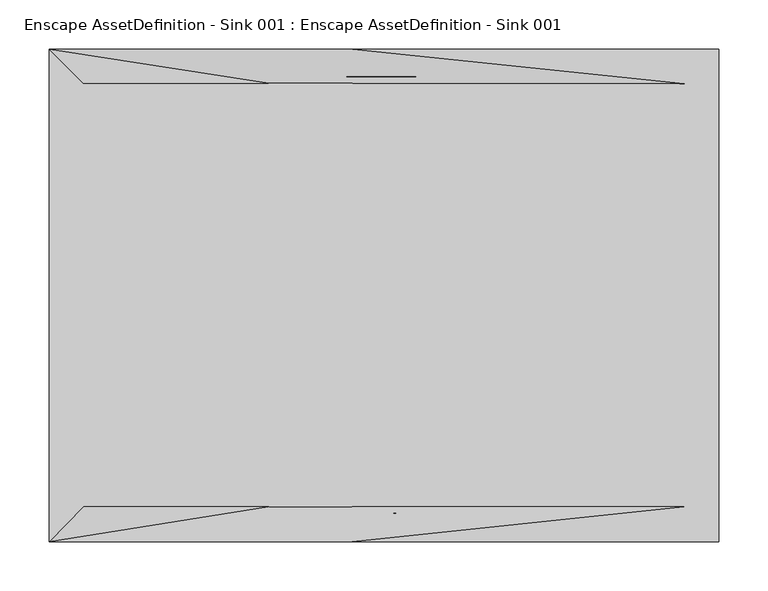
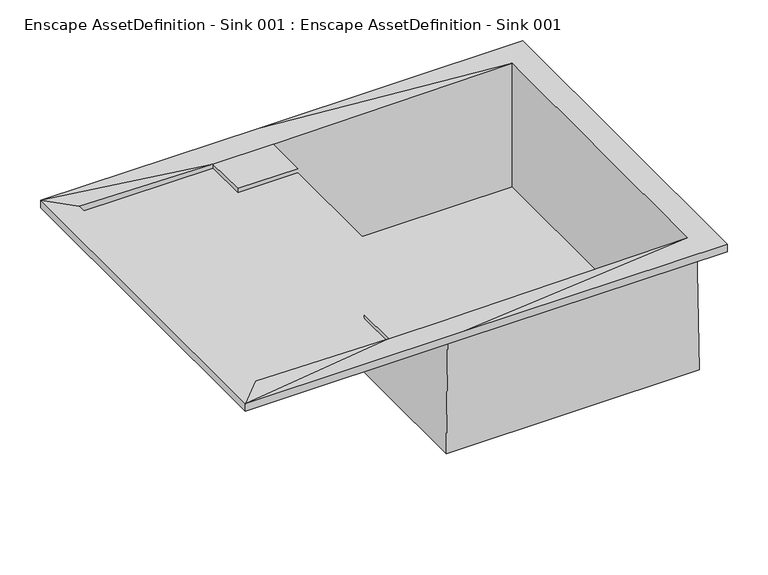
"""IFC4 building model written with IfcOpenShell, lengths in millimetres: geographic element geometry, Enscape AssetDefinition - Sink 001 : Enscape AssetDefinition - Sink 001."""

import ifcopenshell
import ifcopenshell.guid

model = None  # the IFC model being written
_history = None  # IfcOwnerHistory: only IFC2X3 demands one
_inside = {}  # id of a spatial element -> (the spatial element, [elements in it])
_under = {}  # id of a project, library or spatial element -> (it, [spatial elements below it])
_declared = {}  # id of a project -> (the project, [libraries it declares])
_typed = {}  # id of a type object -> (the type object, [elements of that type])
_made_of = {}  # id of a material, layer set ... -> (it, [elements and type objects made of it])


def new_model(schema):
    """Start an empty IFC model of exactly this schema.

    Asked for "IFC4X3", IfcOpenShell would pick the latest addendum, in which some entities
    have other attributes; the version numbers below select the first issue.
    IFC2X3 requires an IfcOwnerHistory on every rooted entity: one is made here for all.
    """
    global model, _history
    if schema == "IFC4X3":
        model = ifcopenshell.file(schema_version=(4, 3, 0, 0))
    else:
        model = ifcopenshell.file(schema=schema)
    _inside.clear()
    _under.clear()
    _declared.clear()
    _typed.clear()
    _made_of.clear()
    _history = None
    if model.schema == "IFC2X3":
        org = make("IfcOrganization", Name="unknown")
        user = make(
            "IfcPersonAndOrganization",
            ThePerson=make("IfcPerson", FamilyName="unknown"),
            TheOrganization=org,
        )
        app = make(
            "IfcApplication",
            ApplicationDeveloper=org,
            Version="unknown",
            ApplicationFullName="unknown",
            ApplicationIdentifier="unknown",
        )
        _history = make(
            "IfcOwnerHistory",
            OwningUser=user,
            OwningApplication=app,
            ChangeAction="ADDED",
            CreationDate=0,
        )
    return model


def make(cls, **values):
    """One entity of the class cls with the attributes given. An attribute that is None is left unset."""
    return model.create_entity(
        cls, **{name: value for name, value in values.items() if value is not None}
    )


def rooted(cls, **values):
    """An entity with a GlobalId (a new one), such as an element, a storey or a relation."""
    return make(cls, GlobalId=ifcopenshell.guid.new(), OwnerHistory=_history, **values)


def si_unit(unit_type, name, prefix=None):
    """IfcSIUnit, for example si_unit("LENGTHUNIT", "METRE", prefix="MILLI")."""
    return make("IfcSIUnit", UnitType=unit_type, Prefix=prefix, Name=name)


def assignment(units):
    """IfcUnitAssignment: the units of a project."""
    return None if units is None else make("IfcUnitAssignment", Units=units)


def point(xyz):
    """IfcCartesianPoint."""
    return None if xyz is None else make("IfcCartesianPoint", Coordinates=xyz)


def direction(xyz):
    """IfcDirection."""
    return None if xyz is None else make("IfcDirection", DirectionRatios=xyz)


def frame(location, z_axis=None, x_axis=None):
    """IfcAxis2Placement3D, a coordinate frame: its origin and axes. An axis left out is left unset."""
    return make(
        "IfcAxis2Placement3D",
        Location=point(location),
        Axis=direction(z_axis),
        RefDirection=direction(x_axis),
    )


def origin():
    """The frame at (0, 0, 0) with its axes left unset."""
    return frame((0.0, 0.0, 0.0))


def place(relative_to, where):
    """IfcLocalPlacement: puts the frame where relative to a parent placement (None: the world)."""
    return make(
        "IfcLocalPlacement", PlacementRelTo=relative_to, RelativePlacement=where
    )


def context(
    kind, dimensions, precision=None, world=None, true_north=None, identifier=None
):
    """IfcGeometricRepresentationContext, for example the 3D "Model" context."""
    return make(
        "IfcGeometricRepresentationContext",
        ContextIdentifier=identifier,
        ContextType=kind,
        CoordinateSpaceDimension=dimensions,
        Precision=precision,
        WorldCoordinateSystem=world,
        TrueNorth=true_north,
    )


def project(units=None, contexts=None):
    """IfcProject with its units and contexts."""
    return rooted(
        "IfcProject",
        Name="project",
        RepresentationContexts=contexts,
        UnitsInContext=assignment(units),
    )


def spatial(cls, under=None, at=None, **own):
    """A site, building, storey or space (cls), placed at a placement, below another one or the project."""
    s = rooted(cls, ObjectPlacement=at, **own)
    if under is not None:
        _under.setdefault(under.id(), (under, []))[1].append(s)
    return s


def point_list(points):
    """IfcCartesianPointList2D or 3D."""
    cls = (
        "IfcCartesianPointList2D" if len(points[0]) == 2 else "IfcCartesianPointList3D"
    )
    return make(cls, CoordList=points)


def triangles(points, corners, closed=None, point_numbers=None):
    """IfcTriangulatedFaceSet: each triangle names its three corners, points numbered from 1."""
    return make(
        "IfcTriangulatedFaceSet",
        Coordinates=point_list(points),
        Closed=closed,
        CoordIndex=corners,
        PnIndex=point_numbers,
    )


def shape(context_of_items, identifier, shape_type, items):
    """IfcShapeRepresentation: the items that make up one representation, for example the "Body"."""
    return make(
        "IfcShapeRepresentation",
        ContextOfItems=context_of_items,
        RepresentationIdentifier=identifier,
        RepresentationType=shape_type,
        Items=items,
    )


def source(mapping_origin, context_of_items, identifier, shape_type, items):
    """IfcRepresentationMap: a shape defined once, which mapped items show again and again."""
    return make(
        "IfcRepresentationMap",
        MappingOrigin=mapping_origin,
        MappedRepresentation=shape(context_of_items, identifier, shape_type, items),
    )


def transform(
    local_origin,
    x_axis=None,
    y_axis=None,
    z_axis=None,
    scale=None,
    scale2=None,
    scale3=None,
    uniform=True,
):
    """IfcCartesianTransformationOperator3D, or its non-uniform kind. x_axis, y_axis, z_axis: its Axis1, 2, 3."""
    if uniform:
        return make(
            "IfcCartesianTransformationOperator3D",
            Axis1=direction(x_axis),
            Axis2=direction(y_axis),
            LocalOrigin=point(local_origin),
            Scale=scale,
            Axis3=direction(z_axis),
        )
    return make(
        "IfcCartesianTransformationOperator3DnonUniform",
        Axis1=direction(x_axis),
        Axis2=direction(y_axis),
        LocalOrigin=point(local_origin),
        Scale=scale,
        Axis3=direction(z_axis),
        Scale2=scale2,
        Scale3=scale3,
    )


def mapped(mapping_source, mapping_target):
    """IfcMappedItem: shows the shape of a source again, moved by a transform."""
    return make(
        "IfcMappedItem", MappingSource=mapping_source, MappingTarget=mapping_target
    )


def made_of(thing, what):
    """Note that an element or type object is made of a material, layer set ...; save() writes the relation."""
    if what is not None:
        _made_of.setdefault(what.id(), (what, []))[1].append(thing)
    return thing


def element(
    cls,
    number,
    at=None,
    inside=None,
    cuts=None,
    type_object=None,
    material=None,
    context=None,
    identifier="Body",
    shape_type=None,
    held_by="IfcProductDefinitionShape",
    body=None,
    shapes=None,
    **own,
):
    """One element of the class cls, such as IfcWall. Its Tag is "e" and its number.

    at: its placement. inside: the storey or other place that contains it. cuts: it is an
    opening in that element (IfcRelVoidsElement). A single representation is given by context,
    identifier, shape_type and body (its items); several are given by shapes. held_by: the class
    of the entity that holds the representations. save() writes the other relations.
    """
    e = rooted(cls, Tag="e%d" % number, ObjectPlacement=at, **own)
    if body is not None:
        shapes = [shape(context, identifier, shape_type, body)]
    if shapes is not None:
        e.Representation = make(held_by, Representations=shapes)
    if inside is not None:
        _inside.setdefault(inside.id(), (inside, []))[1].append(e)
    if cuts is not None:
        rooted(
            "IfcRelVoidsElement", RelatingBuildingElement=cuts, RelatedOpeningElement=e
        )
    if type_object is not None:
        _typed.setdefault(type_object.id(), (type_object, []))[1].append(e)
    return made_of(e, material)


def aggregate(whole, parts):
    """IfcRelAggregates: a whole, such as a stair, and the parts it consists of."""
    return rooted("IfcRelAggregates", RelatingObject=whole, RelatedObjects=parts)


def save(model, path):
    """Write the relations noted so far, then the file.

    IfcRelAggregates (storeys below a building ...), IfcRelContainedInSpatialStructure (elements
    in a storey), IfcRelDefinesByType, IfcRelAssociatesMaterial and IfcRelDeclares: one each for
    every whole, place, type object, material and project.
    """
    for whole, parts in _under.values():
        aggregate(whole, parts)
    for where, things in _inside.values():
        rooted(
            "IfcRelContainedInSpatialStructure",
            RelatedElements=things,
            RelatingStructure=where,
        )
    for kind, things in _typed.values():
        rooted("IfcRelDefinesByType", RelatedObjects=things, RelatingType=kind)
    for what, things in _made_of.values():
        rooted("IfcRelAssociatesMaterial", RelatedObjects=things, RelatingMaterial=what)
    for by, libraries in _declared.values():
        rooted("IfcRelDeclares", RelatingContext=by, RelatedDefinitions=libraries)
    model.write(path)


def enscape_assetdefinition_sink_001_enscape_assetdefinition_419a9225(model_context):
    return source(origin(), model_context, "Body", "Tessellation", [
        triangles([(-116.9380021, -214.8659909, 3.0), (-116.9380021, -214.8659909, -3.067), (-32.0460023, -250.2040047, 6.0), (-116.9380021, -154.8170036, 3.0), (-32.0460023, -154.8170036, 3.0), (-116.9380021, -154.8170036, -3.067), (-32.0460023, -154.8170036, -3.067), (-305.4490156, -214.8659909, -3.067), (-305.4490156, -214.8659909, 6.0), (-305.4490156, 215.4210079, -3.067), (-116.9380021, 215.4210079, -3.067), (-116.9380021, 155.3710032, -3.067), (-74.4920011, 0.277, -3.067), (-32.0460023, -214.8659909, -178.2719855), (-32.0460023, -214.8659909, 3.0), (-32.0460023, 215.4210079, 3.0), (-32.0460023, 155.3710032, -3.067), (-32.0460023, 215.4210079, -178.2719855), (-32.0460023, 155.3710032, 3.0), (-116.9380021, 155.3710032, 3.0), (304.9789862, -214.8659909, -178.2719855), (304.9789862, 214.6719984, -178.2719855), (339.9999953, 249.7959991, 6.0), (339.9999953, -250.2040047, 6.0), (304.9789862, -214.8659909, 6.0), (-32.0460023, 249.7959991, 6.0), (304.9789862, 214.6719984, 6.0), (339.9999953, 249.7959991, -5.3050002), (339.9999953, -250.2040047, -5.3050002), (-339.9999953, 249.7959991, 6.0), (312.6059916, -222.8610153, -5.3050002), (312.6050105, 222.6539967, -5.3050002), (-32.4070017, -250.2040047, -5.3050002), (-37.7719995, -221.3669931, -5.3050002), (314.9789935, -224.8659983, -188.2719928), (-33.3499992, 249.7959991, -5.3050002), (-339.9999953, 249.7959991, -5.3050002), (-42.0439998, 225.4419987, -188.2780063), (-42.0459982, -224.8659983, -188.2719928), (-37.7609991, 221.9419943, -5.3050002), (314.9810283, 224.6530025, -188.2659976), (-339.9999953, -250.2040047, -5.3050002), (-339.9999953, -250.2040047, 6.0), (-305.4490156, 215.4210079, 6.0), (-116.9380021, 215.4210079, 3.0)], [[20, 19, 16], [20, 45, 11], [45, 10, 11], [20, 16, 45], [45, 44, 10], [9, 10, 44], [30, 44, 45], [30, 43, 9], [30, 9, 44], [43, 42, 33], [30, 42, 43], [30, 37, 42], [37, 34, 42], [33, 42, 34], [34, 39, 35], [41, 35, 39], [41, 39, 38], [39, 34, 40], [41, 38, 40], [37, 40, 34], [39, 40, 38], [36, 37, 30], [36, 40, 37], [41, 40, 32], [36, 32, 40], [31, 35, 41], [31, 41, 32], [34, 35, 31], [31, 33, 34], [31, 29, 33], [28, 29, 31], [36, 28, 32], [28, 31, 32], [28, 36, 26], [36, 30, 26], [30, 45, 26], [26, 45, 16], [26, 16, 27], [29, 28, 23], [28, 26, 23], [26, 27, 23], [29, 23, 24], [3, 33, 29], [3, 29, 24], [43, 33, 3], [25, 24, 23], [3, 24, 25], [25, 23, 27], [25, 27, 22], [16, 18, 22], [16, 22, 27], [25, 22, 21], [15, 25, 21], [3, 25, 15], [14, 21, 22], [15, 21, 14], [14, 22, 18], [17, 19, 20], [16, 19, 17], [16, 17, 18], [17, 14, 18], [15, 14, 7], [17, 7, 14], [7, 17, 13], [17, 12, 13], [17, 20, 12], [10, 12, 11], [20, 11, 12], [9, 8, 10], [8, 12, 10], [8, 6, 12], [6, 7, 13], [12, 6, 13], [8, 2, 6], [5, 7, 6], [15, 7, 5], [5, 6, 4], [1, 4, 6], [43, 3, 1], [1, 2, 8], [1, 15, 5], [1, 6, 2], [43, 1, 9], [1, 8, 9], [1, 5, 4], [1, 3, 15]]),
    ])


if __name__ == "__main__":
    model = new_model("IFC4")
    model_context = context("Model", 3, world=origin())
    ifc_project = project(units=[si_unit("LENGTHUNIT", "METRE", prefix="MILLI")], contexts=[model_context])
    site = spatial("IfcSite", under=ifc_project)
    building = spatial("IfcBuilding", under=site)
    placement = place(None, origin())
    enscape_assetdefinition_sink_001_enscape_assetdefinition_shape = enscape_assetdefinition_sink_001_enscape_assetdefinition_419a9225(model_context)
    element("IfcGeographicElement", 1, ObjectType="Enscape AssetDefinition - Sink 001 : Enscape AssetDefinition - Sink 001", at=placement, inside=building, context=model_context, shape_type="MappedRepresentation", body=[
        mapped(enscape_assetdefinition_sink_001_enscape_assetdefinition_shape, transform((0.0, 0.0, 0.0), x_axis=(1.0, 0.0, 0.0), y_axis=(0.0, 1.0, 0.0), z_axis=(0.0, 0.0, 1.0))),
    ])
    save(model, "model.ifc")
